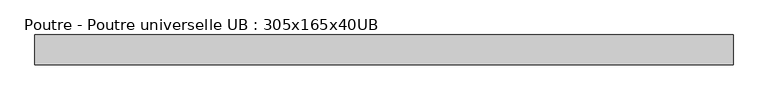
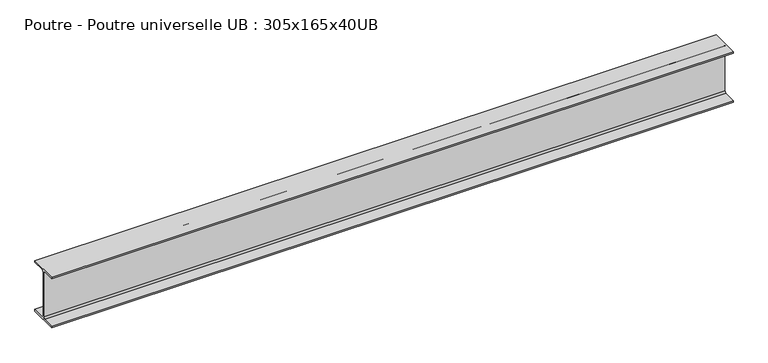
"""IFC4 building model written with IfcOpenShell, lengths in millimetres: beam geometry, Poutre - Poutre universelle UB : 305x165x40UB."""

from ifc_helpers import new_model, si_unit, point, frame, frame_2d, origin, place, context, project, spatial, polyline, circle_curve, trimmed, segment, composite_curve, outline, extrude, source, transform, mapped, element, save


def poutre_poutre_universelle_ub_305x165x40ub_514a329c(model_context):
    return source(origin(), model_context, "Body", "SweptSolid", [
        extrude(outline(composite_curve([segment(polyline([(82.5, -141.5), (82.5, -151.7), (-82.5, -151.7), (-82.5, -141.5), (-11.9, -141.5)]), True, "CONTINUOUS"), segment(trimmed(circle_curve(frame_2d((-11.9, -132.6)), 8.9), [point((-11.9, -141.5))], [point((-3.0, -132.6))], True, "CARTESIAN"), True, "CONTINUOUS"), segment(polyline([(-3.0, -132.6), (-3.0, 132.6)]), True, "CONTINUOUS"), segment(trimmed(circle_curve(frame_2d((-11.9, 132.6)), 8.9), [point((-3.0, 132.6))], [point((-11.9, 141.5))], True, "CARTESIAN"), True, "CONTINUOUS"), segment(polyline([(-11.9, 141.5), (-82.5, 141.5), (-82.5, 151.7), (82.5, 151.7), (82.5, 141.5), (11.9, 141.5)]), True, "CONTINUOUS"), segment(trimmed(circle_curve(frame_2d((11.9, 132.6)), 8.9), [point((11.9, 141.5))], [point((3.0, 132.6))], True, "CARTESIAN"), True, "CONTINUOUS"), segment(polyline([(3.0, 132.6), (3.0, -132.6)]), True, "CONTINUOUS"), segment(trimmed(circle_curve(frame_2d((11.9, -132.6)), 8.9), [point((3.0, -132.6))], [point((11.9, -141.5))], True, "CARTESIAN"), True, "CONTINUOUS"), segment(polyline([(11.9, -141.5), (82.5, -141.5)]), True, "CONTINUOUS")], self_intersect=False)), frame((-1927.0, 0.0, 0.0), z_axis=(1.0, 0.0, 0.0), x_axis=(0.0, 1.0, 0.0)), (0.0, 0.0, 1.0), 3863.0),
    ])


if __name__ == "__main__":
    model = new_model("IFC4")
    model_context = context("Model", 3, world=origin())
    ifc_project = project(units=[si_unit("LENGTHUNIT", "METRE", prefix="MILLI")], contexts=[model_context])
    site = spatial("IfcSite", under=ifc_project)
    building = spatial("IfcBuilding", under=site)
    placement = place(None, origin())
    poutre_poutre_universelle_ub_305x165x40ub_shape = poutre_poutre_universelle_ub_305x165x40ub_514a329c(model_context)
    element("IfcBeam", 1, ObjectType="Poutre - Poutre universelle UB : 305x165x40UB", at=placement, inside=building, context=model_context, shape_type="MappedRepresentation", body=[
        mapped(poutre_poutre_universelle_ub_305x165x40ub_shape, transform((0.0, 0.0, 0.0), x_axis=(1.0, 0.0, 0.0), y_axis=(0.0, 1.0, 0.0), z_axis=(0.0, 0.0, 1.0))),
    ])
    save(model, "model.ifc")
